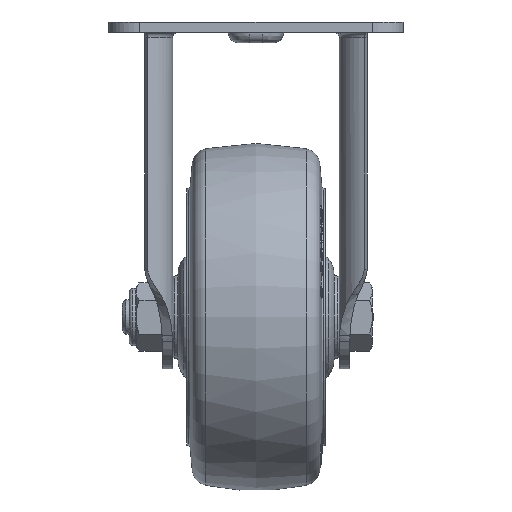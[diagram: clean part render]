
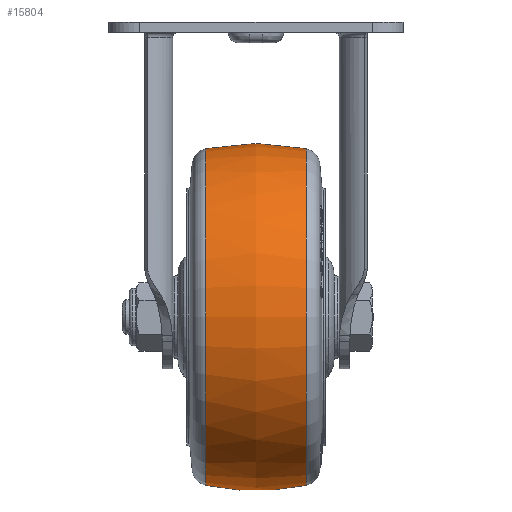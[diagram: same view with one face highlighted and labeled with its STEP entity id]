
A CAD part, left-side view. The second image highlights one B-rep face of the part: STEP entity #15804.
In plain terms, the highlighted free-form (B-spline) face has degree [2, 2] with [3, 9] control points.
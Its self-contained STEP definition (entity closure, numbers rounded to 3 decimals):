
#70=(
BOUNDED_SURFACE()
B_SPLINE_SURFACE(2,2,((#27284,#27285,#27286,#27287,#27288,#27289,#27290,
#27291,#27292),(#27293,#27294,#27295,#27296,#27297,#27298,#27299,#27300,
#27301),(#27302,#27303,#27304,#27305,#27306,#27307,#27308,#27309,#27310)),
 .UNSPECIFIED.,.F.,.T.,.F.)
B_SPLINE_SURFACE_WITH_KNOTS((3,3),(3,2,2,2,3),(-0.208,0.208),
(-3.142,-1.571,0.,1.571,3.142),
 .UNSPECIFIED.)
GEOMETRIC_REPRESENTATION_ITEM()
RATIONAL_B_SPLINE_SURFACE(((1.,0.707,1.,0.707,1.,
0.707,1.,0.707,1.),(0.978,0.692,
0.978,0.692,0.978,0.692,
0.978,0.692,0.978),(1.,0.707,
1.,0.707,1.,0.707,1.,0.707,1.)))
REPRESENTATION_ITEM('')
SURFACE()
);
#2514=FACE_OUTER_BOUND('',#3463,.T.);
#3463=EDGE_LOOP('',(#12724,#12725,#12726,#12727));
#6142=CIRCLE('',#16566,48.492);
#6161=CIRCLE('',#16594,48.492);
#6163=CIRCLE('',#16596,70.);
#7119=VERTEX_POINT('',#27234);
#7134=VERTEX_POINT('',#27281);
#9109=EDGE_CURVE('',#7119,#7119,#6142,.T.);
#9131=EDGE_CURVE('',#7134,#7134,#6161,.T.);
#9133=EDGE_CURVE('',#7119,#7134,#6163,.T.);
#12724=ORIENTED_EDGE('',*,*,#9109,.F.);
#12725=ORIENTED_EDGE('',*,*,#9133,.T.);
#12726=ORIENTED_EDGE('',*,*,#9131,.T.);
#12727=ORIENTED_EDGE('',*,*,#9133,.F.);
#15804=ADVANCED_FACE('',(#2514),#70,.F.);
#16566=AXIS2_PLACEMENT_3D('',#27236,#17990,#17991);
#16594=AXIS2_PLACEMENT_3D('',#27282,#18049,#18050);
#16596=AXIS2_PLACEMENT_3D('',#27311,#18053,#18054);
#17990=DIRECTION('center_axis',(0.,-1.,0.));
#17991=DIRECTION('ref_axis',(0.,0.,
1.));
#18049=DIRECTION('center_axis',(0.,-1.,0.));
#18050=DIRECTION('ref_axis',(0.,0.,
1.));
#18053=DIRECTION('center_axis',(1.,0.,0.));
#18054=DIRECTION('ref_axis',(0.,0.,-1.));
#27234=CARTESIAN_POINT('',(0.,-14.451,-133.492));
#27236=CARTESIAN_POINT('Origin',(0.,-14.451,
-85.));
#27281=CARTESIAN_POINT('',(0.,14.451,-133.492));
#27282=CARTESIAN_POINT('Origin',(0.,14.451,
-85.));
#27284=CARTESIAN_POINT('Ctrl Pts',(0.,14.451,
-133.492));
#27285=CARTESIAN_POINT('Ctrl Pts',(48.492,14.451,-133.492));
#27286=CARTESIAN_POINT('Ctrl Pts',(48.492,14.451,-85.));
#27287=CARTESIAN_POINT('Ctrl Pts',(48.492,14.451,-36.508));
#27288=CARTESIAN_POINT('Ctrl Pts',(0.,14.451,
-36.508));
#27289=CARTESIAN_POINT('Ctrl Pts',(-48.492,14.451,-36.508));
#27290=CARTESIAN_POINT('Ctrl Pts',(-48.492,14.451,-85.));
#27291=CARTESIAN_POINT('Ctrl Pts',(-48.492,14.451,-133.492));
#27292=CARTESIAN_POINT('Ctrl Pts',(0.,14.451,
-133.492));
#27293=CARTESIAN_POINT('Ctrl Pts',(0.,0.,
-136.541));
#27294=CARTESIAN_POINT('Ctrl Pts',(51.541,0.,
-136.541));
#27295=CARTESIAN_POINT('Ctrl Pts',(51.541,0.,
-85.));
#27296=CARTESIAN_POINT('Ctrl Pts',(51.541,0.,
-33.459));
#27297=CARTESIAN_POINT('Ctrl Pts',(0.,0.,
-33.459));
#27298=CARTESIAN_POINT('Ctrl Pts',(-51.541,0.,
-33.459));
#27299=CARTESIAN_POINT('Ctrl Pts',(-51.541,0.,
-85.));
#27300=CARTESIAN_POINT('Ctrl Pts',(-51.541,0.,
-136.541));
#27301=CARTESIAN_POINT('Ctrl Pts',(0.,0.,
-136.541));
#27302=CARTESIAN_POINT('Ctrl Pts',(0.,-14.451,
-133.492));
#27303=CARTESIAN_POINT('Ctrl Pts',(48.492,-14.451,-133.492));
#27304=CARTESIAN_POINT('Ctrl Pts',(48.492,-14.451,-85.));
#27305=CARTESIAN_POINT('Ctrl Pts',(48.492,-14.451,-36.508));
#27306=CARTESIAN_POINT('Ctrl Pts',(0.,-14.451,
-36.508));
#27307=CARTESIAN_POINT('Ctrl Pts',(-48.492,-14.451,
-36.508));
#27308=CARTESIAN_POINT('Ctrl Pts',(-48.492,-14.451,
-85.));
#27309=CARTESIAN_POINT('Ctrl Pts',(-48.492,-14.451,
-133.492));
#27310=CARTESIAN_POINT('Ctrl Pts',(0.,-14.451,
-133.492));
#27311=CARTESIAN_POINT('Origin',(0.,0.,
-65.));
